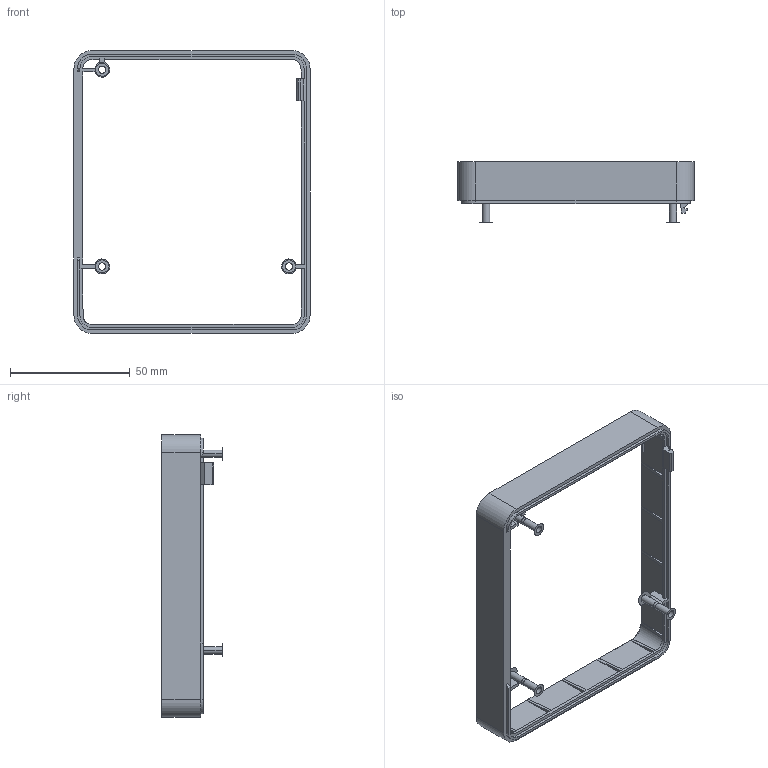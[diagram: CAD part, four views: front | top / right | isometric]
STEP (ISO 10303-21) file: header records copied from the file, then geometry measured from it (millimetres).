
FILE_DESCRIPTION(/* description */ (''),/* implementation_level */ '2;1');
FILE_NAME(/* name */ '/Users/konstantinosmouzakis/Downloads/Bling ring.step',/* time_stamp */ '2020-11-23T13:21:16+00:00',/* author */ (''),/* organization */ (''),/* preprocessor_version */ 'ST-DEVELOPER v18.1',/* originating_system */ 'Autodesk Translation Framework v9.3.0.1241',/* authorisation */ '');
FILE_SCHEMA (('AUTOMOTIVE_DESIGN { 1 0 10303 214 3 1 1 }'));
Length unit declared in the file: millimetre
Products named in the file (1): Bling ring
Bounding box: 98.41 x 25.25 x 117.93 mm (x, y, z)
Volume: 18536.7 mm3; surface area: 19296.7 mm2
Topology: 1 solids, 1 shells, 237 faces, 603 edges, 366 vertices
Faces by surface type: plane 180, bspline 34, cylinder 20, cone 3
Full cylindrical faces by diameter (mm): 3 x3
Entity records: 9099 total; most frequent: CARTESIAN_POINT 3633, ORIENTED_EDGE 1206, DIRECTION 976, EDGE_CURVE 603, LINE 458, VECTOR 458, VERTEX_POINT 366, AXIS2_PLACEMENT_3D 259
